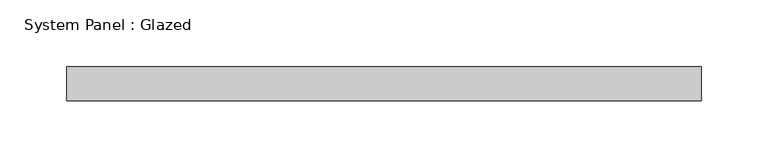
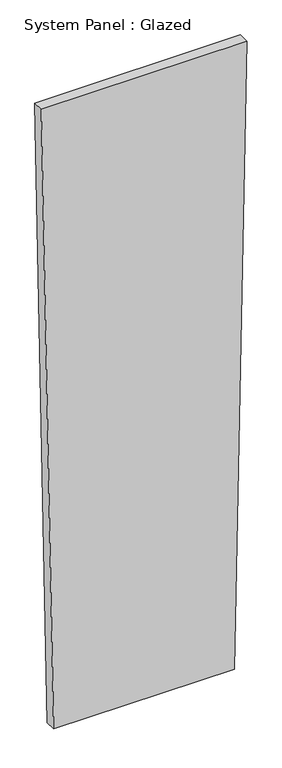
"""IFC4 building model written with IfcOpenShell, lengths in millimetres: plate geometry, System Panel : Glazed."""

from ifc_helpers import new_model, si_unit, frame, origin, place, context, project, spatial, polyline, outline, extrude, source, transform, mapped, element, save


def system_panel_glazed_5ba3e6ec(model_context):
    return source(origin(), model_context, "Body", "SweptSolid", [
        extrude(outline(polyline([(0.0, -209.2664077), (0.0, 209.2664077), (1523.7321911, 237.8357952), (1523.7321911, -237.8357952), (0.0, -209.2664077)])), frame((0.0, -44.45, 0.0), z_axis=(0.0, 1.0, 0.0), x_axis=(0.0, 0.0, 1.0)), (0.0, 0.0, 1.0), 25.4),
    ])


if __name__ == "__main__":
    model = new_model("IFC4")
    model_context = context("Model", 3, world=origin())
    ifc_project = project(units=[si_unit("LENGTHUNIT", "METRE", prefix="MILLI")], contexts=[model_context])
    site = spatial("IfcSite", under=ifc_project)
    building = spatial("IfcBuilding", under=site)
    placement = place(None, origin())
    system_panel_glazed_shape = system_panel_glazed_5ba3e6ec(model_context)
    element("IfcPlate", 1, ObjectType="System Panel : Glazed", at=placement, inside=building, context=model_context, shape_type="MappedRepresentation", body=[
        mapped(system_panel_glazed_shape, transform((0.0, 0.0, 0.0), x_axis=(1.0, 0.0, 0.0), y_axis=(0.0, 1.0, 0.0), z_axis=(0.0, 0.0, 1.0))),
    ])
    save(model, "model.ifc")
